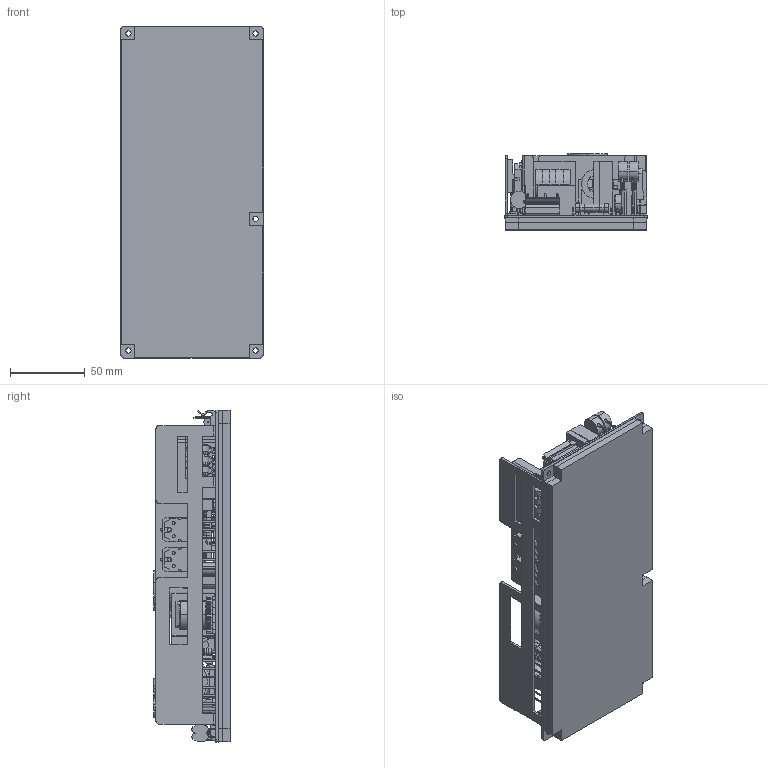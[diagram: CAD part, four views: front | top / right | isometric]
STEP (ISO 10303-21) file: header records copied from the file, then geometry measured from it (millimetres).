
FILE_DESCRIPTION (( 'STEP AP214' ), '1' );
FILE_NAME ('ZWD225PAF_OUTLINE.STEP', '2007-03-20T04:11:34', ( ' ' ), ( ' ' ), 'SwSTEP 2.0', 'SolidWorks 2007', '' );
FILE_SCHEMA (( 'AUTOMOTIVE_DESIGN' ));
Length unit declared in the file: millimetre
Products named in the file (1): ZWD225PAF_OUTLINE
Bounding box: 95 x 51 x 222 mm (x, y, z)
Volume: 423020.8 mm3; surface area: 219237.5 mm2
Topology: 3 solids, 5 shells, 3171 faces, 8683 edges, 5643 vertices
Faces by surface type: plane 1759, cylinder 1254, bspline 146, cone 12
Entity records: 139623 total; most frequent: CARTESIAN_POINT 22150, ORIENTED_EDGE 17366, DIRECTION 17224, EDGE_CURVE 8683, AXIS2_PLACEMENT_3D 5755, VECTOR 5714, LINE 5714, VERTEX_POINT 5643
